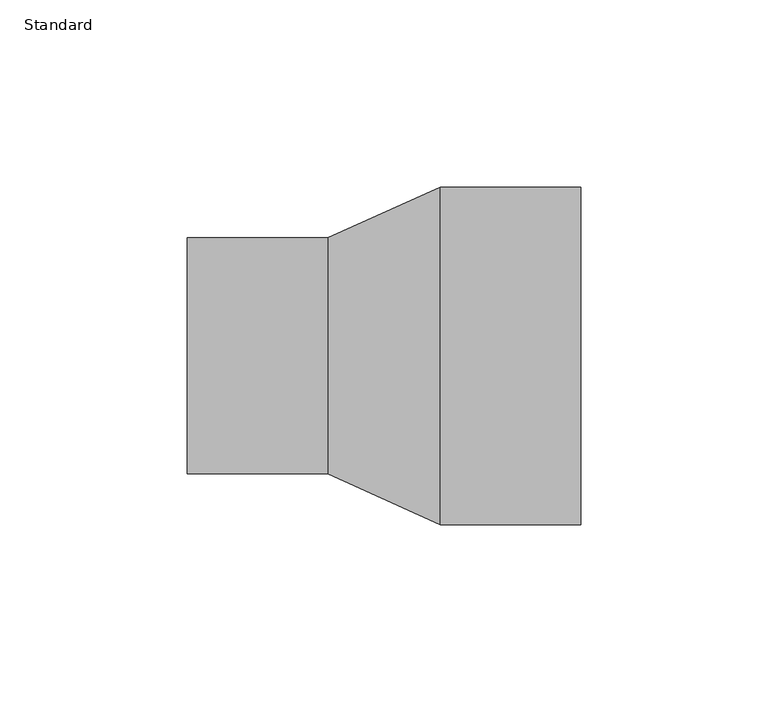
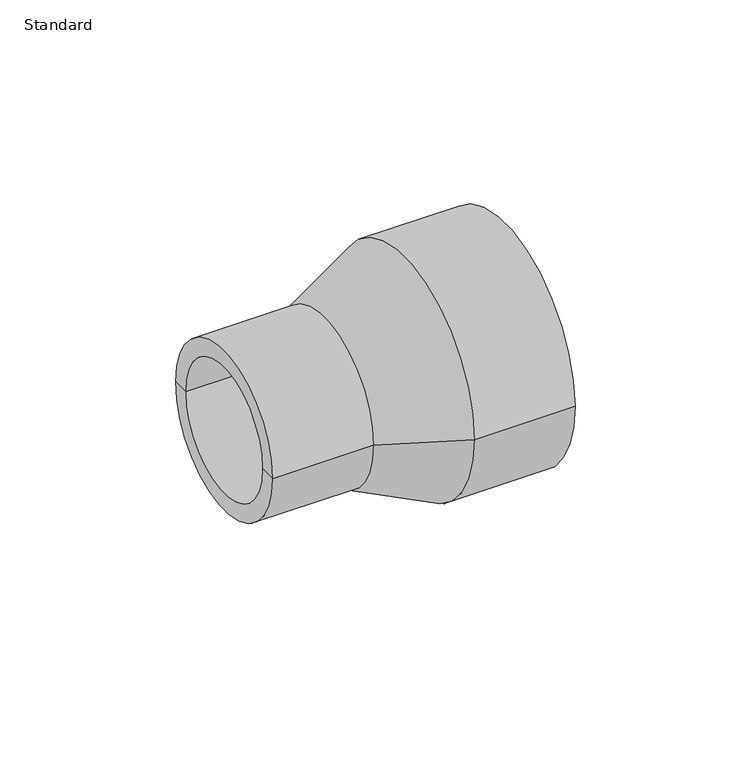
"""IFC4 building model written with IfcOpenShell, lengths in millimetres: pipe fitting geometry, Durapipe_PipeFitting_PVC_Reducers : Standard."""

from ifc_helpers import new_model, si_unit, frame, origin, place, context, project, spatial, polyline, circle_curve, source, transform, mapped, element, save
from ifc_brep_helpers import plane_surface, cylinder_surface, revolved_surface, advanced_brep


def standard_7b42ab66(model_context):
    return source(origin(), model_context, "Body", "AdvancedBrep", [
        advanced_brep(
        [(-52.5, -31.5, 0.0), (-52.5, 31.5, 0.0), (-15.0, 31.5, 0.0), (-15.0, -31.5, 0.0), (-52.5, -25.0, 0.0), (-52.5, 25.0, 0.0), (52.5, -45.0, 0.0), (52.5, 45.0, 0.0), (52.5, 37.5, 0.0), (52.5, -37.5, 0.0), (15.0, -45.0, 0.0), (15.0, 45.0, 0.0), (-15.0, -25.0, 0.0), (-15.0, 25.0, 0.0), (-15.0, 0.0, 0.0), (15.0, -37.5, 0.0), (15.0, 37.5, 0.0), (15.0, 0.0, 0.0)],
        [
            (0, 1, circle_curve(frame((-52.5, 0.0, 0.0), z_axis=(1.0, 0.0, 0.0), x_axis=(0.0, 1.0, 0.0)), 31.5)),
            (1, 2),
            (2, 3, circle_curve(frame((-15.0, 0.0, 0.0), z_axis=(-1.0, 0.0, 0.0), x_axis=(0.0, 1.0, 0.0)), 31.5)),
            (3, 0),
            (1, 0, circle_curve(frame((-52.5, 0.0, 0.0), z_axis=(1.0, 0.0, 0.0), x_axis=(0.0, 1.0, 0.0)), 31.5)),
            (3, 2, circle_curve(frame((-15.0, 0.0, 0.0), z_axis=(-1.0, 0.0, 0.0), x_axis=(0.0, 1.0, 0.0)), 31.5)),
            (4, 5, circle_curve(frame((-52.5, 0.0, 0.0), z_axis=(1.0, 0.0, 0.0), x_axis=(0.0, 1.0, 0.0)), 25.0)),
            (5, 1),
            (0, 4),
            (5, 4, circle_curve(frame((-52.5, 0.0, 0.0), z_axis=(1.0, 0.0, 0.0), x_axis=(0.0, 1.0, 0.0)), 25.0)),
            (6, 7, circle_curve(frame((52.5, 0.0, 0.0), z_axis=(1.0, 0.0, 0.0), x_axis=(0.0, 1.0, 0.0)), 45.0)),
            (7, 8),
            (8, 9, circle_curve(frame((52.5, 0.0, 0.0), z_axis=(-1.0, 0.0, 0.0), x_axis=(0.0, 1.0, 0.0)), 37.5)),
            (9, 6),
            (7, 6, circle_curve(frame((52.5, 0.0, 0.0), z_axis=(1.0, 0.0, 0.0), x_axis=(0.0, 1.0, 0.0)), 45.0)),
            (9, 8, circle_curve(frame((52.5, 0.0, 0.0), z_axis=(-1.0, 0.0, 0.0), x_axis=(0.0, 1.0, 0.0)), 37.5)),
            (10, 11, circle_curve(frame((15.0, 0.0, 0.0), z_axis=(1.0, 0.0, 0.0), x_axis=(0.0, 1.0, 0.0)), 45.0)),
            (11, 7),
            (6, 10),
            (11, 10, circle_curve(frame((15.0, 0.0, 0.0), z_axis=(1.0, 0.0, 0.0), x_axis=(0.0, 1.0, 0.0)), 45.0)),
            (2, 11),
            (10, 3),
            (12, 13, circle_curve(frame((-15.0, 0.0, 0.0), z_axis=(1.0, 0.0, 0.0), x_axis=(0.0, 1.0, 0.0)), 25.0)),
            (13, 5),
            (4, 12),
            (13, 12, circle_curve(frame((-15.0, 0.0, 0.0), z_axis=(1.0, 0.0, 0.0), x_axis=(0.0, 1.0, 0.0)), 25.0)),
            (14, 13),
            (12, 14),
            (15, 16, circle_curve(frame((15.0, 0.0, 0.0), z_axis=(1.0, 0.0, 0.0), x_axis=(0.0, 1.0, 0.0)), 37.5)),
            (16, 17),
            (17, 15),
            (16, 15, circle_curve(frame((15.0, 0.0, 0.0), z_axis=(1.0, 0.0, 0.0), x_axis=(0.0, 1.0, 0.0)), 37.5)),
            (8, 16),
            (15, 9),
        ],
        [
            cylinder_surface(frame((-52.5, 0.0, 0.0), z_axis=(-1.0, 0.0, 0.0), x_axis=(0.0, 1.0, 0.0)), 31.5),
            plane_surface(frame((-52.5, 0.0, 0.0), z_axis=(-1.0, 0.0, 0.0), x_axis=(0.0, 1.0, 0.0))),
            plane_surface(frame((52.5, 0.0, 0.0), z_axis=(1.0, 0.0, 0.0), x_axis=(0.0, 1.0, 0.0))),
            cylinder_surface(frame((-52.5, 0.0, 0.0), z_axis=(-1.0, 0.0, 0.0), x_axis=(0.0, 1.0, 0.0)), 45.0),
            revolved_surface(polyline([(15.0, 45.0, 0.0), (-15.0, 31.5, 0.0)]), (-52.5, 0.0, 0.0), (-1.0, 0.0, 0.0)),
            revolved_surface(polyline([(-52.5, 25.0, 0.0), (-15.0, 25.0, 0.0)]), (-52.5, 0.0, 0.0), (-1.0, 0.0, 0.0)),
            plane_surface(frame((-15.0, 0.0, 0.0), z_axis=(-1.0, 0.0, 0.0), x_axis=(0.0, 1.0, 0.0))),
            plane_surface(frame((15.0, 0.0, 0.0), z_axis=(1.0, 0.0, 0.0), x_axis=(0.0, 1.0, 0.0))),
            revolved_surface(polyline([(15.0, 37.5, 0.0), (52.5, 37.5, 0.0)]), (-52.5, 0.0, 0.0), (-1.0, 0.0, 0.0)),
        ],
        [
            (0, [[1, 2, 3, 4]]),
            (0, [[5, -4, 6, -2]]),
            (1, [[7, 8, -1, 9]]),
            (1, [[10, -9, -5, -8]]),
            (2, [[11, 12, 13, 14]]),
            (2, [[15, -14, 16, -12]]),
            (3, [[17, 18, -11, 19]]),
            (3, [[20, -19, -15, -18]]),
            (4, [[-3, 21, -17, 22]]),
            (4, [[-6, -22, -20, -21]]),
            (5, [[23, 24, -7, 25]]),
            (5, [[26, -25, -10, -24]]),
            (6, [[27, -23, 28]]),
            (6, [[-28, -26, -27]]),
            (7, [[29, 30, 31]]),
            (7, [[32, -31, -30]]),
            (8, [[-13, 33, -29, 34]]),
            (8, [[-16, -34, -32, -33]]),
        ],
    ),
    ])


if __name__ == "__main__":
    model = new_model("IFC4")
    model_context = context("Model", 3, world=origin())
    ifc_project = project(units=[si_unit("LENGTHUNIT", "METRE", prefix="MILLI")], contexts=[model_context])
    site = spatial("IfcSite", under=ifc_project)
    building = spatial("IfcBuilding", under=site)
    placement = place(None, origin())
    standard_shape = standard_7b42ab66(model_context)
    element("IfcPipeFitting", 1, ObjectType="Durapipe_PipeFitting_PVC_Reducers : Standard", at=placement, inside=building, context=model_context, shape_type="MappedRepresentation", body=[
        mapped(standard_shape, transform((0.0, 0.0, 0.0), x_axis=(1.0, 0.0, 0.0), y_axis=(0.0, 1.0, 0.0), z_axis=(0.0, 0.0, 1.0))),
    ])
    save(model, "model.ifc")
